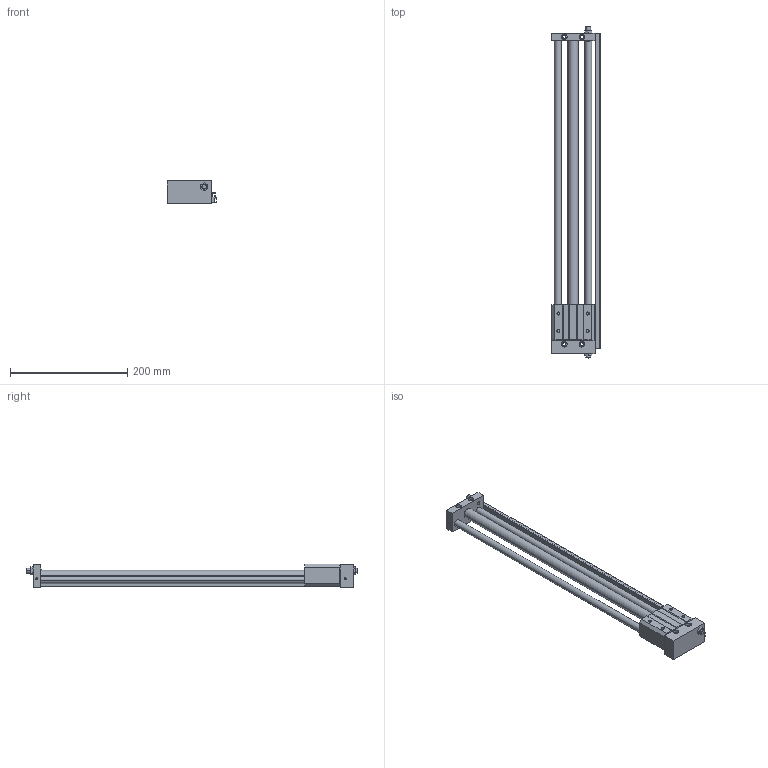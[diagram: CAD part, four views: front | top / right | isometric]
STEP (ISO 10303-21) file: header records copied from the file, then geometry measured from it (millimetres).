
FILE_DESCRIPTION((''),'2;1');
FILE_NAME('C:\Documents and Settings\Administrator\桌面\GYS\GYS15\GYSR15X450.stp','2012-03-05T10:52:10',('Administrator'),(''),'Autodesk Inventor 8','Autodesk Inventor 8','');
FILE_SCHEMA(('AUTOMOTIVE_DESIGN { 1 0 10303 214 1 1 1 1 }'));
Length unit declared in the file: millimetre
Products named in the file (3): GYSR15X450; GYS15X450; GYS15160X450
Assembly tree (2 placements, depth 2):
  GYSR15X450
    GYS15X450
    GYS15160X450
Bounding box: 85 x 567 x 40 mm (x, y, z)
Volume: 522633.2 mm3; surface area: 142010.2 mm2
Topology: 2 solids, 2 shells, 201 faces, 494 edges, 320 vertices
Faces by surface type: plane 107, cylinder 60, cone 28, bspline 6
Entity records: 6100 total; most frequent: CARTESIAN_POINT 1094, DIRECTION 1058, ORIENTED_EDGE 988, EDGE_CURVE 494, AXIS2_PLACEMENT_3D 364, VECTOR 330, LINE 330, VERTEX_POINT 320
